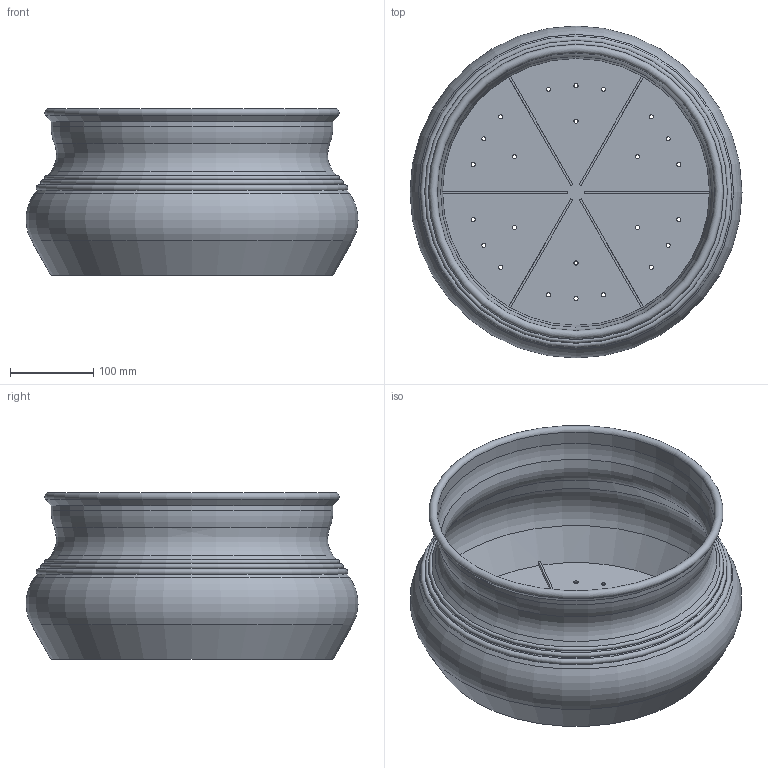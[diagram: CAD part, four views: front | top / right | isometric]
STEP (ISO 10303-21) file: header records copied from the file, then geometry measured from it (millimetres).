
FILE_DESCRIPTION(/* description */ (''),/* implementation_level */ '2;1');
FILE_NAME(/* name */ 'LR2406-S25-H200-D400_step.step',/* time_stamp */ '2024-02-01T11:00:09+01:00',/* author */ (''),/* organization */ (''),/* preprocessor_version */ 'ST-DEVELOPER v20',/* originating_system */ 'Autodesk Translation Framework v12.20.1.177',/* authorisation */ '');
FILE_SCHEMA (('AUTOMOTIVE_DESIGN { 1 0 10303 214 3 1 1 }'));
Length unit declared in the file: millimetre
Products named in the file (1): LR2406-S25-H200-D400
Bounding box: 397.98 x 397.98 x 200 mm (x, y, z)
Volume: 898184 mm3; surface area: 690184.2 mm2
Topology: 1 solids, 1 shells, 70 faces, 185 edges, 117 vertices
Faces by surface type: cylinder 32, plane 20, torus 10, cone 8
Full cylindrical faces by diameter (mm): 5 x24, 333 x1, 338 x1
Entity records: 2336 total; most frequent: DIRECTION 430, CARTESIAN_POINT 373, ORIENTED_EDGE 370, EDGE_CURVE 185, AXIS2_PLACEMENT_3D 174, EDGE_LOOP 118, VERTEX_POINT 117, CIRCLE 103
